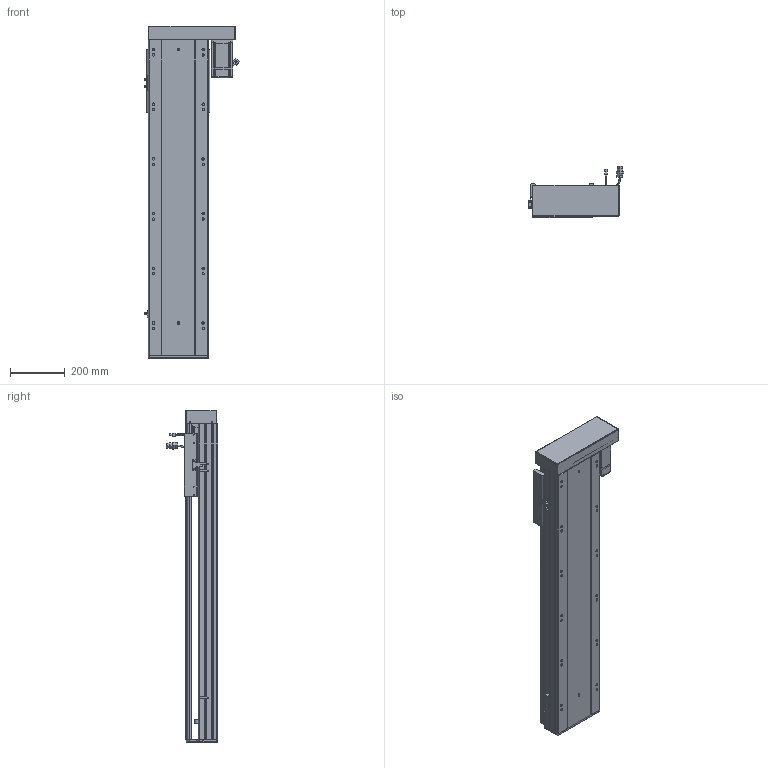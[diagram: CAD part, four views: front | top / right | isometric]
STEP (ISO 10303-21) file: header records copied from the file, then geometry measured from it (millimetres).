
FILE_DESCRIPTION (( 'STEP AP203' ), '1' );
FILE_NAME ('RY220-L2525-800-RK-邧嶺.SLDASM_800.step', '2022-08-06T08:52:33', ( '' ), ( '' ), 'SwSTEP 2.0', 'SolidWorks 2016', '' );
FILE_SCHEMA (( 'CONFIG_CONTROL_DESIGN' ));
Length unit declared in the file: millimetre
Products named in the file (12): RY220酘衵殏萇儂欶; RY220左右折电机安装板; 覜茼ん672; RY220-俋离672覜茼んえ; RY220蛌殏菁釱-800-邧嶺_800; RY220綴裔啣; 滅袉蝶18-10; RY220-L2525-800-RK-邧嶺.SLDASM_800; RY220半封闭25-32螺母铝滑块; RY220-800-蛌殏奻裔啣_800; 怢湛750W_ECMA-CX0807ES; 滅袉蝶18-15
Assembly tree (15 placements, depth 2):
  RY220-L2525-800-RK-邧嶺.SLDASM_800
    RY220蛌殏菁釱-800-邧嶺_800
    RY220-800-蛌殏奻裔啣_800
    怢湛750W_ECMA-CX0807ES
    滅袉蝶18-10  x2
    RY220-俋离672覜茼んえ
    覜茼ん672  x3
    RY220綴裔啣
    RY220半封闭25-32螺母铝滑块
    滅袉蝶18-15  x2
    RY220左右折电机安装板
    RY220酘衵殏萇儂欶
Bounding box: 347.44 x 187.27 x 1214 mm (x, y, z)
Volume: 10444376 mm3; surface area: 3019358.3 mm2
Topology: 16 solids, 16 shells, 2137 faces, 5888 edges, 3727 vertices
Faces by surface type: cylinder 949, plane 904, cone 214, bspline 44, sphere 16, torus 10
Entity records: 70323 total; most frequent: CARTESIAN_POINT 20377, ORIENTED_EDGE 10376, DIRECTION 9724, EDGE_CURVE 5188, AXIS2_PLACEMENT_3D 3399, VERTEX_POINT 3383, LINE 2926, VECTOR 2926
